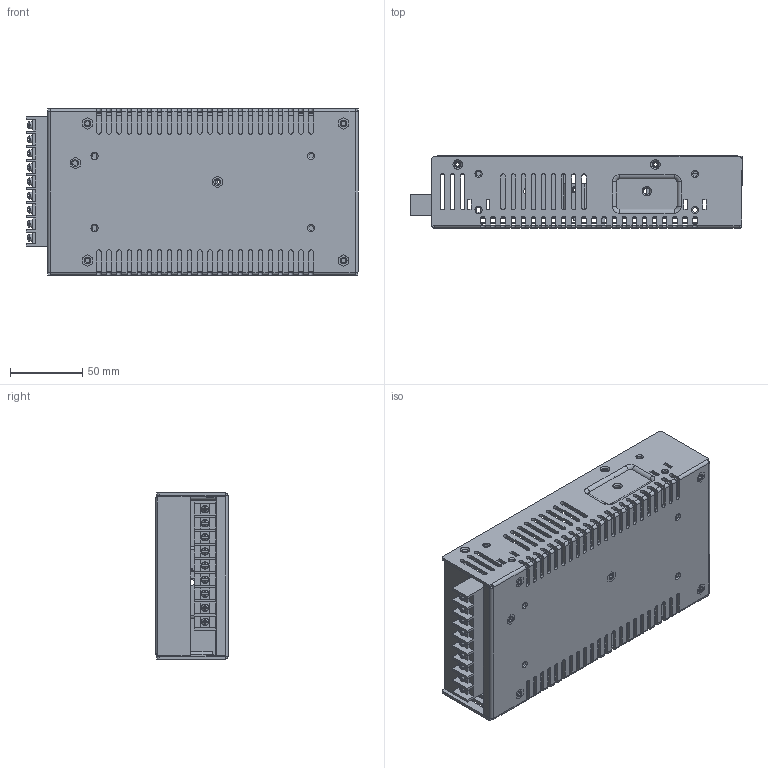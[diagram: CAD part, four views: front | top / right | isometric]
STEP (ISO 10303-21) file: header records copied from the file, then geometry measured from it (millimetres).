
FILE_DESCRIPTION((''),'2;1');
FILE_NAME('W:\mechanical\機構工程圖\3D圖檔\3D Outline-2020\已完成待審核\SPV-150.stp','2020-07-31T11:41:03',('shirley'),(''),'Autodesk Inventor 2010','Autodesk Inventor 2010','');
FILE_SCHEMA(('AUTOMOTIVE_DESIGN { 1 0 10303 214 1 1 1 1 }'));
Length unit declared in the file: millimetre
Products named in the file (14): SPV-150; 912L-D; NUT_CPY; NUT_CPY1; NUT_CPY1_CPY; NUT_CPY1_CPY1; NUT_CPY1_CPY_CPY; NUT-1; MYLAR; PCB; HS4; TB; 912B-T
Assembly tree (13 placements, depth 3):
  SPV-150
    SPV-150
      912L-D
      NUT_CPY
      NUT_CPY1
      NUT_CPY1_CPY
      NUT_CPY1_CPY1
      NUT_CPY1_CPY_CPY
      NUT-1
    MYLAR
    PCB
    HS4
    TB
    912B-T
Bounding box: 230 x 50 x 115 mm (x, y, z)
Volume: 189221.8 mm3; surface area: 256725.3 mm2
Topology: 12 solids, 12 shells, 1315 faces, 4507 edges, 3672 vertices
Faces by surface type: plane 801, cylinder 434, bspline 35, torus 35, cone 10
Full cylindrical faces by diameter (mm): 2.6 x7, 3 x4, 3.3 x1, 3.5 x10, 3.6 x13, 4.5 x8, 5 x24, 7 x2
Entity records: 52681 total; most frequent: CARTESIAN_POINT 10834, DIRECTION 8109, ORIENTED_EDGE 7676, EDGE_CURVE 3838, VECTOR 3045, LINE 3045, VERTEX_POINT 2607, AXIS2_PLACEMENT_3D 2532
